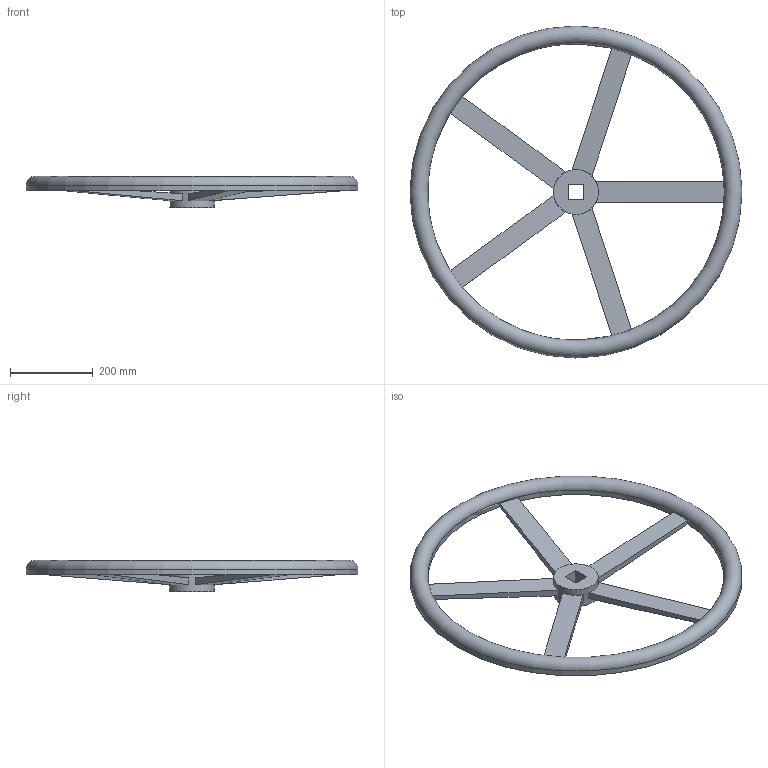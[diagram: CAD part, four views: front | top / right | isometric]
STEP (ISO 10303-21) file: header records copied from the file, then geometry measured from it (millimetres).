
FILE_DESCRIPTION( ( 'STEP AP203' ), '1' );
FILE_NAME( 'p:/temp/worker_172/temp/exporttempdir_1976_158_hhD6T/format_0/5007607 7800 DN500-600 (400).stp', '2021-01-13T08:48:52', ( 'License CC BY-ND 4.0' ), ( 'CADENAS' ), ' ', 'PARTsolutions', ' ' );
FILE_SCHEMA( ( 'CONFIG_CONTROL_DESIGN' ) );
Length unit declared in the file: millimetre
Products named in the file (1): _5007607 7800 DN500-600 (400)
Bounding box: 800 x 800 x 75 mm (x, y, z)
Volume: 2168720.1 mm3; surface area: 666114.8 mm2
Topology: 1 solids, 1 shells, 35 faces, 97 edges, 60 vertices
Faces by surface type: plane 18, cone 10, cylinder 5, torus 2
Full cylindrical faces by diameter (mm): 108 x1, 715 x1, 722.2 x1, 792.8 x1, 800 x1
Entity records: 1294 total; most frequent: CARTESIAN_POINT 399, DIRECTION 172, ORIENTED_EDGE 172, EDGE_CURVE 86, AXIS2_PLACEMENT_3D 70, VERTEX_POINT 57, EDGE_LOOP 51, FACE_OUTER_BOUND 42
